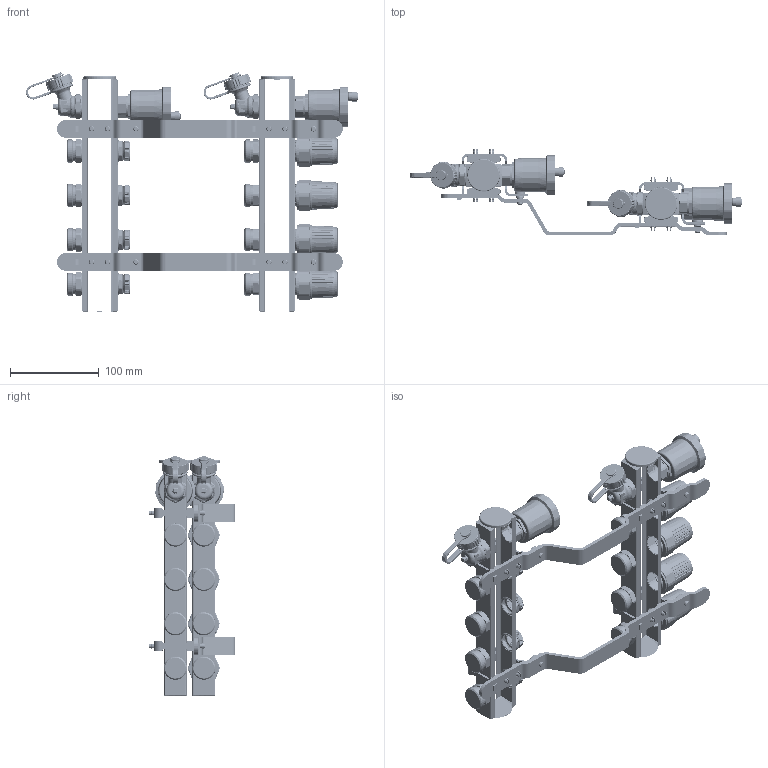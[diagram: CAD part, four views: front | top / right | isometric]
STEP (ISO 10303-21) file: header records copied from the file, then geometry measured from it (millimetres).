
FILE_DESCRIPTION(('STEP AP203'), '1');
FILE_NAME('622621.156.000 捘 - VTc.594.EMNX.0604', '2025-11-26T11:37:50', ('verevichevva'), ('Vesta'), 'C3D Converter', 'C3D Toolkit', '');
FILE_SCHEMA(('CONFIG_CONTROL_DESIGN'));
Length unit declared in the file: millimetre
Products named in the file (1): 622621.156.000 СБ
Bounding box: 374.1 x 97.53 x 269.7 mm (x, y, z)
Surface area: 208147.3 mm2 (no closed solid volume)
Topology: 0 solids, 1 shells, 8922 faces, 23403 edges, 14274 vertices
Faces by surface type: cylinder 2622, bspline 2200, plane 1724, torus 1308, cone 844, sphere 224
Full cylindrical faces by diameter (mm): 4.2 x2, 6 x12, 6.8 x4, 7 x2, 8.352 x4, 8.4 x4, 9.5 x2, 11.2 x2, 11.5 x2, 12 x4, 16 x2, 17 x4, 18 x14, 20.8 x4, 21.5 x4, 23.3 x8, 24.5 x4, 25 x12, 25.8 x2, 26.1 x8, 28.4 x2, 33 x4, 34 x4
Entity records: 508778 total; most frequent: CARTESIAN_POINT 315350, ORIENTED_EDGE 45582, DIRECTION 32472, EDGE_CURVE 22798, VERTEX_POINT 14266, AXIS2_PLACEMENT_3D 13682, B_SPLINE_CURVE_WITH_KNOTS 10622, EDGE_LOOP 9500
